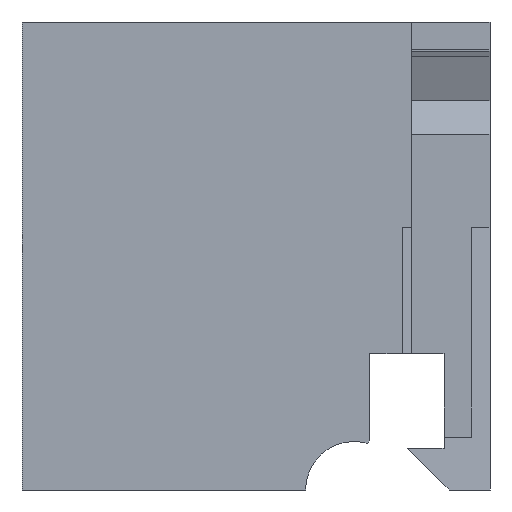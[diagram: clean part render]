
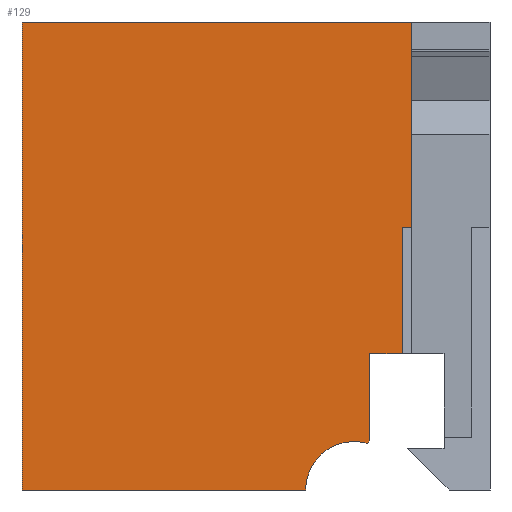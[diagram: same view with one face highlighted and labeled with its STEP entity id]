
A CAD part, left-side view. The second image highlights one B-rep face of the part: STEP entity #129.
In plain terms, the highlighted planar face has unit normal (-1, 0, 0).
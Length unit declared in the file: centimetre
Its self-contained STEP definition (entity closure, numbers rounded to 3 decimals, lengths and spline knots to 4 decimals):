
#4 = VECTOR ( 'NONE', #1066, 100. ) ;
#7 = LINE ( 'NONE', #331, #4 ) ;
#15 = EDGE_CURVE ( 'NONE', #214, #44, #615, .T. ) ;
#31 = ORIENTED_EDGE ( 'NONE', *, *, #362, .T. ) ;
#44 = VERTEX_POINT ( 'NONE', #462 ) ;
#45 = DIRECTION ( 'NONE',  ( 0., 0., 1. ) ) ;
#83 = PLANE ( 'NONE',  #880 ) ;
#104 = DIRECTION ( 'NONE',  ( 1., 0., 0. ) ) ;
#109 = ORIENTED_EDGE ( 'NONE', *, *, #936, .T. ) ;
#129 = ADVANCED_FACE ( 'NONE', ( #627 ), #83, .F. ) ;
#131 = VECTOR ( 'NONE', #1190, 100. ) ;
#133 = ORIENTED_EDGE ( 'NONE', *, *, #235, .T. ) ;
#135 = CIRCLE ( 'NONE', #295, 103.5236 ) ;
#145 = DIRECTION ( 'NONE',  ( 0., 1., 0. ) ) ;
#150 = VERTEX_POINT ( 'NONE', #444 ) ;
#163 = DIRECTION ( 'NONE',  ( 1., 0., 0. ) ) ;
#166 = CARTESIAN_POINT ( 'NONE',  ( 0., 1000., 0. ) ) ;
#189 = CARTESIAN_POINT ( 'NONE',  ( 0., 1000., 1000. ) ) ;
#206 = CARTESIAN_POINT ( 'NONE',  ( 0., 187.374, 561.3495 ) ) ;
#210 = EDGE_CURVE ( 'NONE', #907, #613, #754, .T. ) ;
#214 = VERTEX_POINT ( 'NONE', #857 ) ;
#228 = ORIENTED_EDGE ( 'NONE', *, *, #1109, .T. ) ;
#231 = CARTESIAN_POINT ( 'NONE',  ( 0., 1000., 0. ) ) ;
#235 = EDGE_CURVE ( 'NONE', #907, #807, #572, .T. ) ;
#236 = VERTEX_POINT ( 'NONE', #1135 ) ;
#266 = ORIENTED_EDGE ( 'NONE', *, *, #758, .T. ) ;
#295 = AXIS2_PLACEMENT_3D ( 'NONE', #962, #104, #313 ) ;
#313 = DIRECTION ( 'NONE',  ( 0., 0., -1. ) ) ;
#318 = DIRECTION ( 'NONE',  ( 0., 0., -1. ) ) ;
#323 = EDGE_LOOP ( 'NONE', ( #228, #329, #1072, #109, #784, #133, #31, #576, #266, #580 ) ) ;
#329 = ORIENTED_EDGE ( 'NONE', *, *, #935, .F. ) ;
#331 = CARTESIAN_POINT ( 'NONE',  ( 0., 167.8558, 112.9971 ) ) ;
#340 = DIRECTION ( 'NONE',  ( 0., -1., 0. ) ) ;
#352 = LINE ( 'NONE', #166, #413 ) ;
#362 = EDGE_CURVE ( 'NONE', #807, #150, #352, .T. ) ;
#368 = DIRECTION ( 'NONE',  ( 0., -1., 0. ) ) ;
#393 = VECTOR ( 'NONE', #145, 100. ) ;
#413 = VECTOR ( 'NONE', #340, 100. ) ;
#441 = CARTESIAN_POINT ( 'NONE',  ( 0., 98.2546, 291.0469 ) ) ;
#444 = CARTESIAN_POINT ( 'NONE',  ( 0., 393.9996, 0. ) ) ;
#462 = CARTESIAN_POINT ( 'NONE',  ( 0., 257.0719, 291.0469 ) ) ;
#560 = VECTOR ( 'NONE', #318, 100. ) ;
#572 = LINE ( 'NONE', #1033, #903 ) ;
#576 = ORIENTED_EDGE ( 'NONE', *, *, #678, .T. ) ;
#577 = DIRECTION ( 'NONE',  ( 0., 0., -1. ) ) ;
#580 = ORIENTED_EDGE ( 'NONE', *, *, #15, .T. ) ;
#613 = VERTEX_POINT ( 'NONE', #677 ) ;
#615 = LINE ( 'NONE', #818, #1211 ) ;
#627 = FACE_OUTER_BOUND ( 'NONE', #323, .T. ) ;
#634 = CARTESIAN_POINT ( 'NONE',  ( 0., 1000., 1000. ) ) ;
#677 = CARTESIAN_POINT ( 'NONE',  ( 0., 167.8558, 1000. ) ) ;
#678 = EDGE_CURVE ( 'NONE', #150, #1099, #135, .T. ) ;
#679 = VERTEX_POINT ( 'NONE', #206 ) ;
#687 = LINE ( 'NONE', #887, #560 ) ;
#754 = LINE ( 'NONE', #189, #1031 ) ;
#758 = EDGE_CURVE ( 'NONE', #1099, #214, #804, .T. ) ;
#784 = ORIENTED_EDGE ( 'NONE', *, *, #210, .F. ) ;
#787 = LINE ( 'NONE', #997, #393 ) ;
#804 = LINE ( 'NONE', #1089, #872 ) ;
#807 = VERTEX_POINT ( 'NONE', #231 ) ;
#818 = CARTESIAN_POINT ( 'NONE',  ( 0., 257.0719, 88.7918 ) ) ;
#857 = CARTESIAN_POINT ( 'NONE',  ( 0., 257.0719, 104.9824 ) ) ;
#872 = VECTOR ( 'NONE', #911, 100. ) ;
#874 = VERTEX_POINT ( 'NONE', #983 ) ;
#880 = AXIS2_PLACEMENT_3D ( 'NONE', #634, #163, #923 ) ;
#883 = EDGE_CURVE ( 'NONE', #236, #679, #787, .T. ) ;
#887 = CARTESIAN_POINT ( 'NONE',  ( 0., 187.374, 561.3495 ) ) ;
#903 = VECTOR ( 'NONE', #577, 100. ) ;
#907 = VERTEX_POINT ( 'NONE', #1162 ) ;
#911 = DIRECTION ( 'NONE',  ( 0., -0.707, 0.707 ) ) ;
#923 = DIRECTION ( 'NONE',  ( 0., 0., -1. ) ) ;
#935 = EDGE_CURVE ( 'NONE', #679, #874, #687, .T. ) ;
#936 = EDGE_CURVE ( 'NONE', #236, #613, #7, .T. ) ;
#962 = CARTESIAN_POINT ( 'NONE',  ( 0., 290.476, 0. ) ) ;
#983 = CARTESIAN_POINT ( 'NONE',  ( 0., 187.374, 291.0469 ) ) ;
#997 = CARTESIAN_POINT ( 'NONE',  ( 0., 0., 561.3495 ) ) ;
#1017 = CARTESIAN_POINT ( 'NONE',  ( 0., 262.4082, 99.6461 ) ) ;
#1031 = VECTOR ( 'NONE', #368, 100. ) ;
#1033 = CARTESIAN_POINT ( 'NONE',  ( 0., 1000., 1000. ) ) ;
#1066 = DIRECTION ( 'NONE',  ( 0., 0., 1. ) ) ;
#1072 = ORIENTED_EDGE ( 'NONE', *, *, #883, .F. ) ;
#1089 = CARTESIAN_POINT ( 'NONE',  ( 0., 224.7912, 137.2631 ) ) ;
#1099 = VERTEX_POINT ( 'NONE', #1017 ) ;
#1109 = EDGE_CURVE ( 'NONE', #44, #874, #1196, .T. ) ;
#1135 = CARTESIAN_POINT ( 'NONE',  ( 0., 167.8558, 561.3495 ) ) ;
#1162 = CARTESIAN_POINT ( 'NONE',  ( 0., 1000., 1000. ) ) ;
#1190 = DIRECTION ( 'NONE',  ( 0., -1., 0. ) ) ;
#1196 = LINE ( 'NONE', #441, #131 ) ;
#1211 = VECTOR ( 'NONE', #45, 100. ) ;
